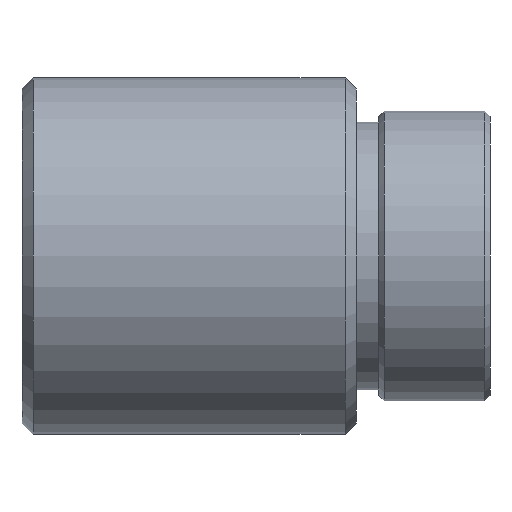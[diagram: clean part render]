
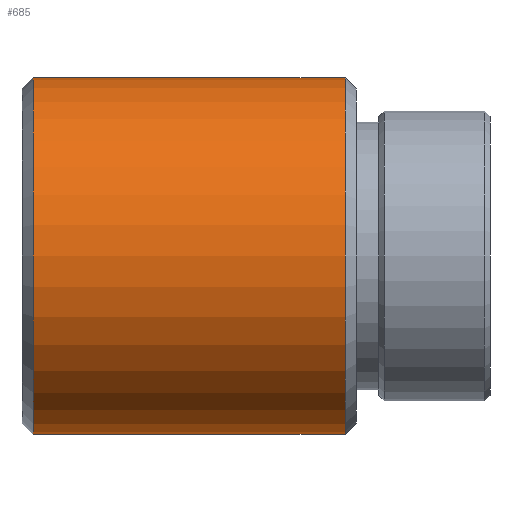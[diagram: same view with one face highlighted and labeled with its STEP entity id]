
A CAD part, front view. The second image highlights one B-rep face of the part: STEP entity #685.
In plain terms, the highlighted cylindrical face has radius 16 mm (diameter 32 mm), a partial arc.
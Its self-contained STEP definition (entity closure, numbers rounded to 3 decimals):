
#28 = DIRECTION ( 'NONE',  ( 0., 0., 1. ) ) ;
#74 = CYLINDRICAL_SURFACE ( 'NONE', #137, 16. ) ;
#86 = CARTESIAN_POINT ( 'NONE',  ( 1., 0., 0. ) ) ;
#90 = DIRECTION ( 'NONE',  ( 0., 0., 1. ) ) ;
#95 = CARTESIAN_POINT ( 'NONE',  ( -28.983, 0., 16. ) ) ;
#108 = VERTEX_POINT ( 'NONE', #549 ) ;
#121 = AXIS2_PLACEMENT_3D ( 'NONE', #86, #417, #28 ) ;
#137 = AXIS2_PLACEMENT_3D ( 'NONE', #583, #261, #90 ) ;
#228 = DIRECTION ( 'NONE',  ( -1., 0., 0. ) ) ;
#235 = EDGE_LOOP ( 'NONE', ( #621, #335, #303, #247 ) ) ;
#237 = VECTOR ( 'NONE', #336, 1000. ) ;
#247 = ORIENTED_EDGE ( 'NONE', *, *, #304, .F. ) ;
#261 = DIRECTION ( 'NONE',  ( -1., 0., 0. ) ) ;
#272 = CARTESIAN_POINT ( 'NONE',  ( -28.983, 0., -16. ) ) ;
#283 = CARTESIAN_POINT ( 'NONE',  ( 1., 0., 16. ) ) ;
#303 = ORIENTED_EDGE ( 'NONE', *, *, #489, .T. ) ;
#304 = EDGE_CURVE ( 'NONE', #108, #411, #652, .T. ) ;
#329 = CIRCLE ( 'NONE', #381, 16. ) ;
#335 = ORIENTED_EDGE ( 'NONE', *, *, #384, .T. ) ;
#336 = DIRECTION ( 'NONE',  ( -1., 0., 0. ) ) ;
#375 = CARTESIAN_POINT ( 'NONE',  ( 29., 0., -16. ) ) ;
#381 = AXIS2_PLACEMENT_3D ( 'NONE', #614, #228, #555 ) ;
#384 = EDGE_CURVE ( 'NONE', #688, #464, #329, .T. ) ;
#400 = LINE ( 'NONE', #272, #237 ) ;
#411 = VERTEX_POINT ( 'NONE', #283 ) ;
#417 = DIRECTION ( 'NONE',  ( -1., 0., 0. ) ) ;
#435 = EDGE_CURVE ( 'NONE', #688, #108, #400, .T. ) ;
#436 = CARTESIAN_POINT ( 'NONE',  ( 29., 0., 16. ) ) ;
#464 = VERTEX_POINT ( 'NONE', #436 ) ;
#480 = DIRECTION ( 'NONE',  ( -1., 0., 0. ) ) ;
#489 = EDGE_CURVE ( 'NONE', #464, #411, #505, .T. ) ;
#505 = LINE ( 'NONE', #95, #622 ) ;
#511 = FACE_OUTER_BOUND ( 'NONE', #235, .T. ) ;
#549 = CARTESIAN_POINT ( 'NONE',  ( 1., 0., -16. ) ) ;
#555 = DIRECTION ( 'NONE',  ( 0., 0., 1. ) ) ;
#583 = CARTESIAN_POINT ( 'NONE',  ( -28.983, 0., 0. ) ) ;
#614 = CARTESIAN_POINT ( 'NONE',  ( 29., 0., 0. ) ) ;
#621 = ORIENTED_EDGE ( 'NONE', *, *, #435, .F. ) ;
#622 = VECTOR ( 'NONE', #480, 1000. ) ;
#652 = CIRCLE ( 'NONE', #121, 16. ) ;
#685 = ADVANCED_FACE ( 'NONE', ( #511 ), #74, .T. ) ;
#688 = VERTEX_POINT ( 'NONE', #375 ) ;
